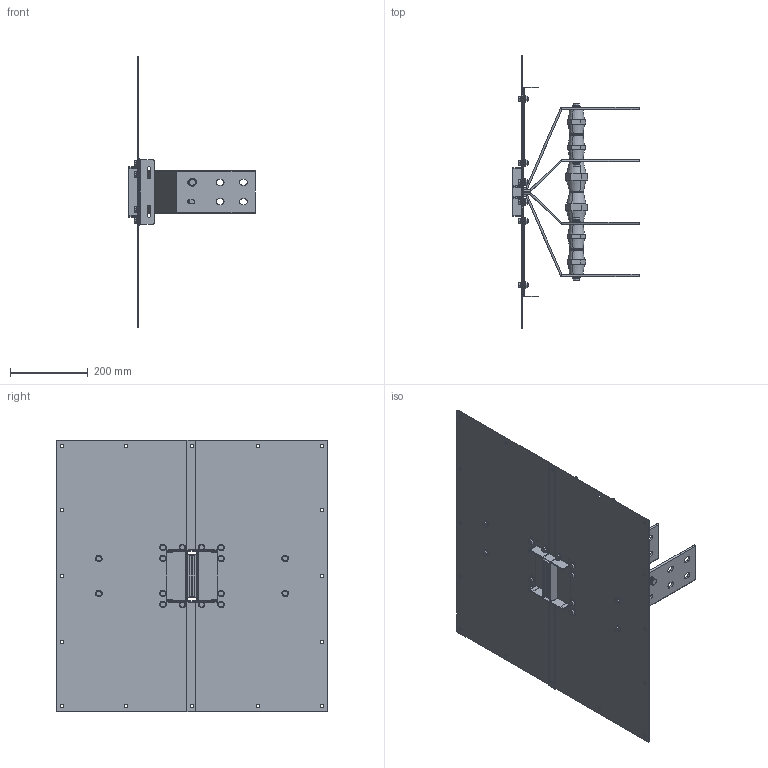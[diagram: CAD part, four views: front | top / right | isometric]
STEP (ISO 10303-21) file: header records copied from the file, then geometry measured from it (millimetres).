
FILE_DESCRIPTION(('CATIA V5 STEP','CAx-IF Rec.Pracs.--- Model Styling and Organization---1.5--- 2016-08-15','CAx-IF Rec.Pracs.---Supplemental Geometry---1.0---2011-11-01','CAx-IF Rec.Pracs.--- Composite Materials ---1.1---2010-07-15'),'2;1');
FILE_NAME('K:\COSCN 2011\32372311_RiduzioneSezioniBarre\03_Studio\__Modelli semplificati\XCP_UB semplificati per studi\XCP-HP_UB_4C_Pe_CRT_Assieme\Al\XCP-HP_UB_4C_Pe_S_Assieme - 1000A Al_CRT\XCP-HP_UB_4C_Pe_S_Assieme - 1000A Al_CRT.stp','2025-05-12T09:30:37+00:00',('Utente Bticino'),('Bticino S.p.A.'),'CATIA Version 5-6 Release 2020 SP5','CATIA V5 STEP AP214 v2','none');
FILE_SCHEMA(('AUTOMOTIVE_DESIGN { 1 0 10303 214 1 1 1 1 }'));
Length unit declared in the file: millimetre
Products named in the file (20): XCP-HP_UB_4C_Pe_S_Assieme - 1000A Al_CRT; XCP-HP_UB_4C_Pe_S_PaccoBarre_1000A Al_CRT; XCP-HP_UB_4C_Pe_S_Lamiere_1000A Al_CRT; Ass_M10x25.1; 00740025 M10x25 UNI5739; Rondella spac M10 UNI 1751; 00750005; 130006; 130184; 130006_1; 130184_1; 130006_2; 130006_3; 00750033 - RONDELLA PIANA 4.8 D.12 UNI 6592 ZB; 00750033 - RONDELLA PIANA 4.8 D.12 UNI 6592 ZB_1; 00750033 - RONDELLA PIANA 4.8 D.12 UNI 6592 ZB_2; Viteria UB H130; Ass Vite+dado M8; Steel hex flanged SCREW M12x16; Steel hex flanged NUT M8
Assembly tree (39 placements, depth 4):
  XCP-HP_UB_4C_Pe_S_Assieme - 1000A Al_CRT
    XCP-HP_UB_4C_Pe_S_PaccoBarre_1000A Al_CRT
    XCP-HP_UB_4C_Pe_S_Lamiere_1000A Al_CRT
    Ass_M10x25.1  x6
      00740025 M10x25 UNI5739
      Rondella spac M10 UNI 1751
      00750005
    130006
    130184
    130006_1
    130184_1
    130006_2
    130006_3
    00750033 - RONDELLA PIANA 4.8 D.12 UNI 6592 ZB
    00750033 - RONDELLA PIANA 4.8 D.12 UNI 6592 ZB_1
    00750033 - RONDELLA PIANA 4.8 D.12 UNI 6592 ZB_2
    Viteria UB H130
      Ass Vite+dado M8  x16
        Steel hex flanged SCREW M12x16
        Steel hex flanged NUT M8
Bounding box: 325 x 700 x 700 mm (x, y, z)
Volume: 2723903.3 mm3; surface area: 1771148.6 mm2
Topology: 73 solids, 73 shells, 1660 faces, 3976 edges, 2500 vertices
Faces by surface type: plane 728, cylinder 492, cone 200, bspline 176, torus 64
Entity records: 23761 total; most frequent: CARTESIAN_POINT 5192, ORIENTED_EDGE 3944, DIRECTION 3114, EDGE_CURVE 1972, AXIS2_PLACEMENT_3D 1368, VERTEX_POINT 1260, VECTOR 1128, LINE 1128
